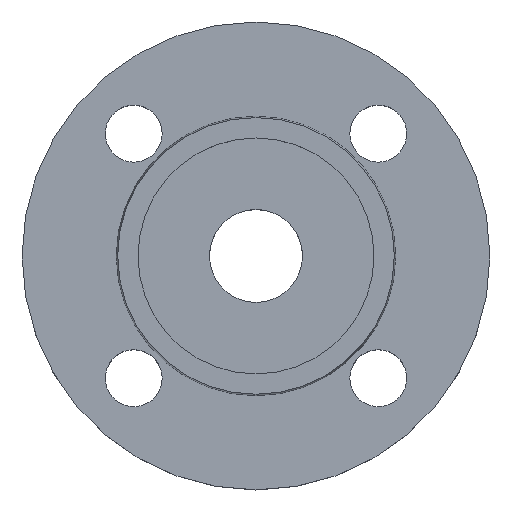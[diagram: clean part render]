
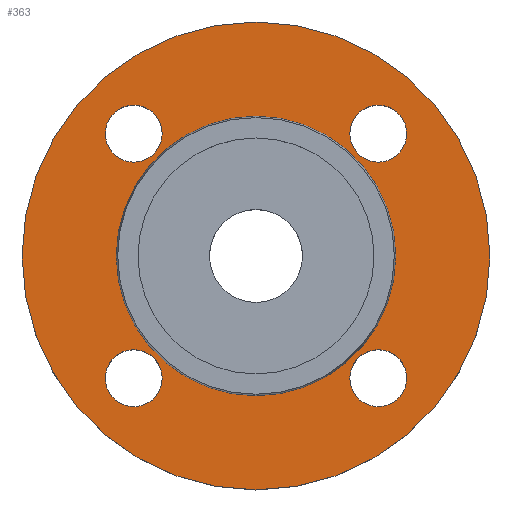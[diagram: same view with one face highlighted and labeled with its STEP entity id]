
A CAD part, top view. The second image highlights one B-rep face of the part: STEP entity #363.
In plain terms, the highlighted planar face has unit normal (0, 0, 1).
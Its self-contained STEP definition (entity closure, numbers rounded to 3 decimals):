
#26 = CIRCLE ( 'NONE', #549, 7. ) ;
#42 = AXIS2_PLACEMENT_3D ( 'NONE', #156, #155, #154 ) ;
#67 = AXIS2_PLACEMENT_3D ( 'NONE', #152, #151, #150 ) ;
#71 = CARTESIAN_POINT ( 'NONE',  ( -37.052, 30.052, -2. ) ) ;
#74 = CARTESIAN_POINT ( 'NONE',  ( 23.052, -30.052, -2. ) ) ;
#76 = CARTESIAN_POINT ( 'NONE',  ( 37.052, -30.052, -2. ) ) ;
#77 = CARTESIAN_POINT ( 'NONE',  ( 37.052, 30.052, -2. ) ) ;
#96 = CARTESIAN_POINT ( 'NONE',  ( 23.052, 30.052, -2. ) ) ;
#102 = CARTESIAN_POINT ( 'NONE',  ( -23.052, -30.052, -2. ) ) ;
#114 = CARTESIAN_POINT ( 'NONE',  ( -37.052, -30.052, -2. ) ) ;
#124 = DIRECTION ( 'NONE',  ( 0., 0., -1. ) ) ;
#127 = CARTESIAN_POINT ( 'NONE',  ( 34.353, 0., -2. ) ) ;
#146 = DIRECTION ( 'NONE',  ( 1., 0., 0. ) ) ;
#148 = DIRECTION ( 'NONE',  ( 0., 0., -1. ) ) ;
#149 = CARTESIAN_POINT ( 'NONE',  ( 30.052, -30.052, -2. ) ) ;
#150 = DIRECTION ( 'NONE',  ( 1., 0., 0. ) ) ;
#151 = DIRECTION ( 'NONE',  ( 0., 0., -1. ) ) ;
#152 = CARTESIAN_POINT ( 'NONE',  ( -30.052, -30.052, -2. ) ) ;
#154 = DIRECTION ( 'NONE',  ( -1., 0., 0. ) ) ;
#155 = DIRECTION ( 'NONE',  ( 0., 0., -1. ) ) ;
#156 = CARTESIAN_POINT ( 'NONE',  ( 0., 0., -2. ) ) ;
#158 = CARTESIAN_POINT ( 'NONE',  ( -57.5, 0., -2. ) ) ;
#162 = AXIS2_PLACEMENT_3D ( 'NONE', #414, #415, #417 ) ;
#166 = CARTESIAN_POINT ( 'NONE',  ( 57.5, 0., -2. ) ) ;
#178 = CARTESIAN_POINT ( 'NONE',  ( -23.052, 30.052, -2. ) ) ;
#179 = EDGE_CURVE ( 'NONE', #655, #680, #218, .T. ) ;
#187 = DIRECTION ( 'NONE',  ( 0., 0., -1. ) ) ;
#194 = CIRCLE ( 'NONE', #198, 57.5 ) ;
#198 = AXIS2_PLACEMENT_3D ( 'NONE', #238, #211, #240 ) ;
#201 = EDGE_CURVE ( 'NONE', #478, #605, #251, .T. ) ;
#211 = DIRECTION ( 'NONE',  ( 0., 0., -1. ) ) ;
#213 = DIRECTION ( 'NONE',  ( 1., 0., 0. ) ) ;
#218 = CIRCLE ( 'NONE', #219, 7. ) ;
#219 = AXIS2_PLACEMENT_3D ( 'NONE', #766, #767, #768 ) ;
#225 = EDGE_CURVE ( 'NONE', #639, #629, #393, .T. ) ;
#226 = CARTESIAN_POINT ( 'NONE',  ( -30.052, 30.052, -2. ) ) ;
#230 = CIRCLE ( 'NONE', #262, 7. ) ;
#232 = CIRCLE ( 'NONE', #162, 7. ) ;
#235 = AXIS2_PLACEMENT_3D ( 'NONE', #316, #317, #319 ) ;
#238 = CARTESIAN_POINT ( 'NONE',  ( 0., 0., -2. ) ) ;
#240 = DIRECTION ( 'NONE',  ( -1., 0., 0. ) ) ;
#241 = CIRCLE ( 'NONE', #357, 34.353 ) ;
#251 = CIRCLE ( 'NONE', #256, 34.353 ) ;
#255 = EDGE_CURVE ( 'NONE', #476, #689, #458, .T. ) ;
#256 = AXIS2_PLACEMENT_3D ( 'NONE', #783, #784, #785 ) ;
#261 = EDGE_CURVE ( 'NONE', #605, #478, #241, .T. ) ;
#262 = AXIS2_PLACEMENT_3D ( 'NONE', #149, #148, #146 ) ;
#278 = CIRCLE ( 'NONE', #67, 7. ) ;
#296 = AXIS2_PLACEMENT_3D ( 'NONE', #434, #435, #436 ) ;
#315 = AXIS2_PLACEMENT_3D ( 'NONE', #402, #405, #406 ) ;
#316 = CARTESIAN_POINT ( 'NONE',  ( -30.052, 30.052, -2. ) ) ;
#317 = DIRECTION ( 'NONE',  ( 0., 0., -1. ) ) ;
#318 = CIRCLE ( 'NONE', #315, 7. ) ;
#319 = DIRECTION ( 'NONE',  ( 1., 0., 0. ) ) ;
#325 = CARTESIAN_POINT ( 'NONE',  ( 0., 0., -2. ) ) ;
#327 = DIRECTION ( 'NONE',  ( -1., 0., 0. ) ) ;
#335 = EDGE_CURVE ( 'NONE', #680, #655, #318, .T. ) ;
#353 = EDGE_CURVE ( 'NONE', #682, #687, #232, .T. ) ;
#357 = AXIS2_PLACEMENT_3D ( 'NONE', #325, #124, #327 ) ;
#363 = ADVANCED_FACE ( 'NONE', ( #427, #428, #429, #430, #431, #432 ), #433, .T. ) ;
#375 = CIRCLE ( 'NONE', #42, 57.5 ) ;
#389 = AXIS2_PLACEMENT_3D ( 'NONE', #789, #790, #791 ) ;
#393 = CIRCLE ( 'NONE', #389, 7. ) ;
#395 = EDGE_CURVE ( 'NONE', #689, #476, #26, .T. ) ;
#402 = CARTESIAN_POINT ( 'NONE',  ( 30.052, 30.052, -2. ) ) ;
#405 = DIRECTION ( 'NONE',  ( 0., 0., -1. ) ) ;
#406 = DIRECTION ( 'NONE',  ( 1., 0., 0. ) ) ;
#414 = CARTESIAN_POINT ( 'NONE',  ( 30.052, -30.052, -2. ) ) ;
#415 = DIRECTION ( 'NONE',  ( 0., 0., -1. ) ) ;
#417 = DIRECTION ( 'NONE',  ( 1., 0., 0. ) ) ;
#427 = FACE_BOUND ( 'NONE', #660, .T. ) ;
#428 = FACE_BOUND ( 'NONE', #573, .T. ) ;
#429 = FACE_BOUND ( 'NONE', #681, .T. ) ;
#430 = FACE_BOUND ( 'NONE', #667, .T. ) ;
#431 = FACE_BOUND ( 'NONE', #616, .T. ) ;
#432 = FACE_OUTER_BOUND ( 'NONE', #637, .T. ) ;
#433 = PLANE ( 'NONE',  #296 ) ;
#434 = CARTESIAN_POINT ( 'NONE',  ( 34.353, 0., -2. ) ) ;
#435 = DIRECTION ( 'NONE',  ( 0., 0., 1. ) ) ;
#436 = DIRECTION ( 'NONE',  ( 1., 0., 0. ) ) ;
#456 = EDGE_CURVE ( 'NONE', #490, #484, #194, .T. ) ;
#458 = CIRCLE ( 'NONE', #235, 7. ) ;
#468 = CARTESIAN_POINT ( 'NONE',  ( -34.353, 0., -2. ) ) ;
#476 = VERTEX_POINT ( 'NONE', #178 ) ;
#478 = VERTEX_POINT ( 'NONE', #468 ) ;
#484 = VERTEX_POINT ( 'NONE', #166 ) ;
#490 = VERTEX_POINT ( 'NONE', #158 ) ;
#503 = EDGE_CURVE ( 'NONE', #484, #490, #375, .T. ) ;
#510 = EDGE_CURVE ( 'NONE', #629, #639, #278, .T. ) ;
#525 = EDGE_CURVE ( 'NONE', #687, #682, #230, .T. ) ;
#549 = AXIS2_PLACEMENT_3D ( 'NONE', #226, #187, #213 ) ;
#552 = ORIENTED_EDGE ( 'NONE', *, *, #353, .T. ) ;
#553 = ORIENTED_EDGE ( 'NONE', *, *, #525, .T. ) ;
#554 = ORIENTED_EDGE ( 'NONE', *, *, #225, .T. ) ;
#556 = ORIENTED_EDGE ( 'NONE', *, *, #510, .T. ) ;
#557 = ORIENTED_EDGE ( 'NONE', *, *, #255, .T. ) ;
#559 = ORIENTED_EDGE ( 'NONE', *, *, #395, .T. ) ;
#560 = ORIENTED_EDGE ( 'NONE', *, *, #335, .T. ) ;
#561 = ORIENTED_EDGE ( 'NONE', *, *, #179, .T. ) ;
#562 = ORIENTED_EDGE ( 'NONE', *, *, #201, .T. ) ;
#563 = ORIENTED_EDGE ( 'NONE', *, *, #261, .T. ) ;
#564 = ORIENTED_EDGE ( 'NONE', *, *, #503, .F. ) ;
#565 = ORIENTED_EDGE ( 'NONE', *, *, #456, .F. ) ;
#573 = EDGE_LOOP ( 'NONE', ( #554, #556 ) ) ;
#605 = VERTEX_POINT ( 'NONE', #127 ) ;
#616 = EDGE_LOOP ( 'NONE', ( #562, #563 ) ) ;
#629 = VERTEX_POINT ( 'NONE', #114 ) ;
#637 = EDGE_LOOP ( 'NONE', ( #564, #565 ) ) ;
#639 = VERTEX_POINT ( 'NONE', #102 ) ;
#655 = VERTEX_POINT ( 'NONE', #96 ) ;
#660 = EDGE_LOOP ( 'NONE', ( #552, #553 ) ) ;
#667 = EDGE_LOOP ( 'NONE', ( #560, #561 ) ) ;
#680 = VERTEX_POINT ( 'NONE', #77 ) ;
#681 = EDGE_LOOP ( 'NONE', ( #557, #559 ) ) ;
#682 = VERTEX_POINT ( 'NONE', #76 ) ;
#687 = VERTEX_POINT ( 'NONE', #74 ) ;
#689 = VERTEX_POINT ( 'NONE', #71 ) ;
#766 = CARTESIAN_POINT ( 'NONE',  ( 30.052, 30.052, -2. ) ) ;
#767 = DIRECTION ( 'NONE',  ( 0., 0., -1. ) ) ;
#768 = DIRECTION ( 'NONE',  ( 1., 0., 0. ) ) ;
#783 = CARTESIAN_POINT ( 'NONE',  ( 0., 0., -2. ) ) ;
#784 = DIRECTION ( 'NONE',  ( 0., 0., -1. ) ) ;
#785 = DIRECTION ( 'NONE',  ( -1., 0., 0. ) ) ;
#789 = CARTESIAN_POINT ( 'NONE',  ( -30.052, -30.052, -2. ) ) ;
#790 = DIRECTION ( 'NONE',  ( 0., 0., -1. ) ) ;
#791 = DIRECTION ( 'NONE',  ( 1., 0., 0. ) ) ;
